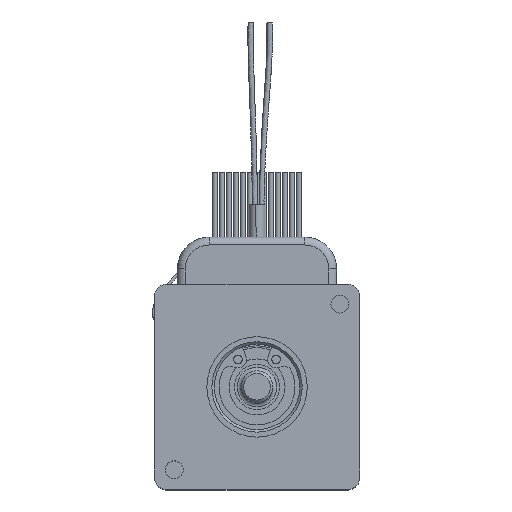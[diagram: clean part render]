
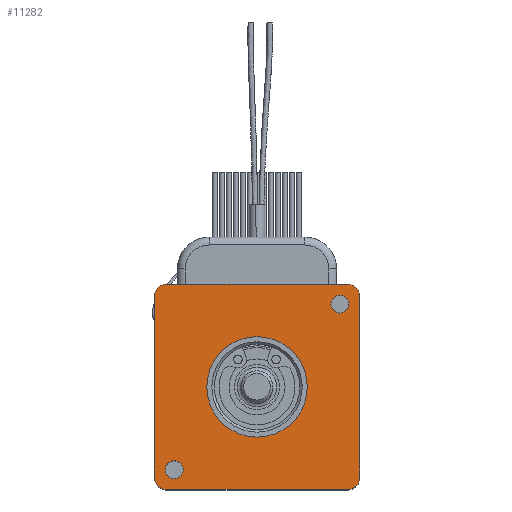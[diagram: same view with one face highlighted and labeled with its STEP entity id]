
A CAD part, top view. The second image highlights one B-rep face of the part: STEP entity #11282.
In plain terms, the highlighted planar face has unit normal (0, 0, 1).
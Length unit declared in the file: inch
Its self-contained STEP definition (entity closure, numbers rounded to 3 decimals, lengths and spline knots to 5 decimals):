
#10728=CARTESIAN_POINT('',(0.72,0.65,0.191));
#10729=VERTEX_POINT('',#10728);
#10730=CARTESIAN_POINT('',(0.65,0.65,0.191));
#10731=DIRECTION('',(0.0,0.0,-1.0));
#10732=DIRECTION('',(-1.0,0.0,0.0));
#10733=AXIS2_PLACEMENT_3D('',#10730,#10731,#10732);
#10734=CIRCLE('',#10733,0.07);
#10735=EDGE_CURVE('',#10729,#10729,#10734,.T.);
#10831=CARTESIAN_POINT('',(-0.58,-0.65,0.191));
#10832=VERTEX_POINT('',#10831);
#10833=CARTESIAN_POINT('',(-0.65,-0.65,0.191));
#10834=DIRECTION('',(0.0,0.0,-1.0));
#10835=DIRECTION('',(-1.0,0.0,0.0));
#10836=AXIS2_PLACEMENT_3D('',#10833,#10834,#10835);
#10837=CIRCLE('',#10836,0.07);
#10838=EDGE_CURVE('',#10832,#10832,#10837,.T.);
#11050=CARTESIAN_POINT('',(0.394,0.,0.191));
#11051=VERTEX_POINT('',#11050);
#11052=CARTESIAN_POINT('',(0.0,0.0,0.191));
#11053=DIRECTION('',(0.0,0.0,-1.0));
#11054=DIRECTION('',(-1.0,0.0,0.0));
#11055=AXIS2_PLACEMENT_3D('',#11052,#11053,#11054);
#11056=CIRCLE('',#11055,0.394);
#11057=EDGE_CURVE('',#11051,#11051,#11056,.T.);
#11068=CARTESIAN_POINT('',(0.715,0.805,0.191));
#11069=VERTEX_POINT('',#11068);
#11076=CARTESIAN_POINT('',(0.805,0.715,0.191));
#11077=VERTEX_POINT('',#11076);
#11078=CARTESIAN_POINT('',(0.715,0.715,0.191));
#11079=DIRECTION('',(0.0,0.0,-1.));
#11080=DIRECTION('',(0.707,0.707,0.0));
#11081=AXIS2_PLACEMENT_3D('',#11078,#11079,#11080);
#11082=CIRCLE('',#11081,0.09);
#11083=EDGE_CURVE('',#11069,#11077,#11082,.T.);
#11101=CARTESIAN_POINT('',(-0.715,0.805,0.191));
#11102=VERTEX_POINT('',#11101);
#11109=CARTESIAN_POINT('',(-0.715,0.805,0.191));
#11110=DIRECTION('',(1.0,0.0,0.0));
#11111=VECTOR('',#11110,1.43);
#11112=LINE('',#11109,#11111);
#11113=EDGE_CURVE('',#11102,#11069,#11112,.T.);
#11124=CARTESIAN_POINT('',(-0.715,-0.805,0.191));
#11125=VERTEX_POINT('',#11124);
#11132=CARTESIAN_POINT('',(-0.805,-0.715,0.191));
#11133=VERTEX_POINT('',#11132);
#11134=CARTESIAN_POINT('',(-0.715,-0.715,0.191));
#11135=DIRECTION('',(0.0,0.0,-1.));
#11136=DIRECTION('',(-0.707,-0.707,0.0));
#11137=AXIS2_PLACEMENT_3D('',#11134,#11135,#11136);
#11138=CIRCLE('',#11137,0.09);
#11139=EDGE_CURVE('',#11125,#11133,#11138,.T.);
#11157=CARTESIAN_POINT('',(0.715,-0.805,0.191));
#11158=VERTEX_POINT('',#11157);
#11165=CARTESIAN_POINT('',(0.715,-0.805,0.191));
#11166=DIRECTION('',(-1.0,0.0,0.0));
#11167=VECTOR('',#11166,1.43);
#11168=LINE('',#11165,#11167);
#11169=EDGE_CURVE('',#11158,#11125,#11168,.T.);
#11180=CARTESIAN_POINT('',(0.805,-0.715,0.191));
#11181=VERTEX_POINT('',#11180);
#11188=CARTESIAN_POINT('',(0.715,-0.715,0.191));
#11189=DIRECTION('',(0.0,0.0,-1.));
#11190=DIRECTION('',(0.707,-0.707,0.0));
#11191=AXIS2_PLACEMENT_3D('',#11188,#11189,#11190);
#11192=CIRCLE('',#11191,0.09);
#11193=EDGE_CURVE('',#11181,#11158,#11192,.T.);
#11205=CARTESIAN_POINT('',(0.805,0.715,0.191));
#11206=DIRECTION('',(0.0,-1.0,0.0));
#11207=VECTOR('',#11206,1.43);
#11208=LINE('',#11205,#11207);
#11209=EDGE_CURVE('',#11077,#11181,#11208,.T.);
#11221=CARTESIAN_POINT('',(-0.805,0.715,0.191));
#11222=VERTEX_POINT('',#11221);
#11223=CARTESIAN_POINT('',(-0.715,0.715,0.191));
#11224=DIRECTION('',(0.0,0.0,-1.));
#11225=DIRECTION('',(-0.707,0.707,0.0));
#11226=AXIS2_PLACEMENT_3D('',#11223,#11224,#11225);
#11227=CIRCLE('',#11226,0.09);
#11228=EDGE_CURVE('',#11222,#11102,#11227,.T.);
#11247=CARTESIAN_POINT('',(-0.805,-0.715,0.191));
#11248=DIRECTION('',(0.0,1.0,0.0));
#11249=VECTOR('',#11248,1.43);
#11250=LINE('',#11247,#11249);
#11251=EDGE_CURVE('',#11133,#11222,#11250,.T.);
#11258=CARTESIAN_POINT('',(0.,0.,0.191));
#11259=DIRECTION('',(0.0,0.0,1.0));
#11260=DIRECTION('',(1.0,0.0,0.0));
#11261=AXIS2_PLACEMENT_3D('',#11258,#11259,#11260);
#11262=PLANE('',#11261);
#11263=ORIENTED_EDGE('',*,*,#11083,.F.);
#11264=ORIENTED_EDGE('',*,*,#11113,.F.);
#11265=ORIENTED_EDGE('',*,*,#11228,.F.);
#11266=ORIENTED_EDGE('',*,*,#11251,.F.);
#11267=ORIENTED_EDGE('',*,*,#11139,.F.);
#11268=ORIENTED_EDGE('',*,*,#11169,.F.);
#11269=ORIENTED_EDGE('',*,*,#11193,.F.);
#11270=ORIENTED_EDGE('',*,*,#11209,.F.);
#11271=EDGE_LOOP('',(#11263,#11264,#11265,#11266,#11267,#11268,#11269,#11270));
#11272=FACE_OUTER_BOUND('',#11271,.T.);
#11273=ORIENTED_EDGE('',*,*,#10735,.T.);
#11274=EDGE_LOOP('',(#11273));
#11275=FACE_BOUND('',#11274,.T.);
#11276=ORIENTED_EDGE('',*,*,#10838,.T.);
#11277=EDGE_LOOP('',(#11276));
#11278=FACE_BOUND('',#11277,.T.);
#11279=ORIENTED_EDGE('',*,*,#11057,.T.);
#11280=EDGE_LOOP('',(#11279));
#11281=FACE_BOUND('',#11280,.T.);
#11282=ADVANCED_FACE('',(#11272,#11275,#11278,#11281),#11262,.T.);
